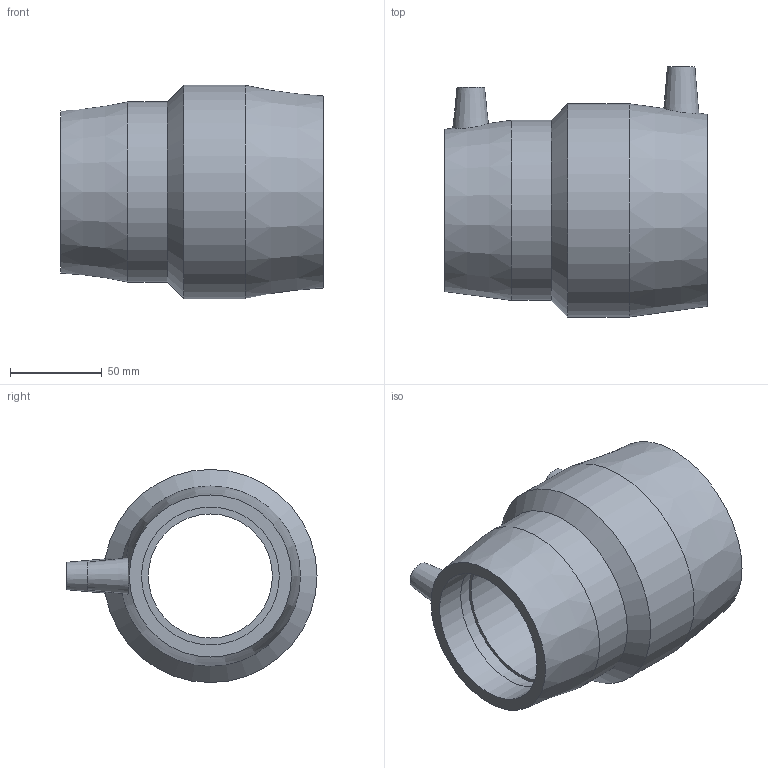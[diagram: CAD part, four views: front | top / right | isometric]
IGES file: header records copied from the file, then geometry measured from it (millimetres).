
Global section: file name: 491104090075.ipt; native system: Autodesk Inventor 2015; preprocessor: unknown; author: KIM; date: 20171106.093735; units: millimetre
Bounding box: 143 x 136 x 116 mm (x, y, z)
Volume: 481035.1 mm3; surface area: 96823 mm2
Topology: 1 solids, 1 shells, 31 faces, 72 edges, 51 vertices
Faces by surface type: plane 12, revolution 10, cone 5, cylinder 4
Full cylindrical faces by diameter (mm): 4 x2, 98 x1, 116 x1
